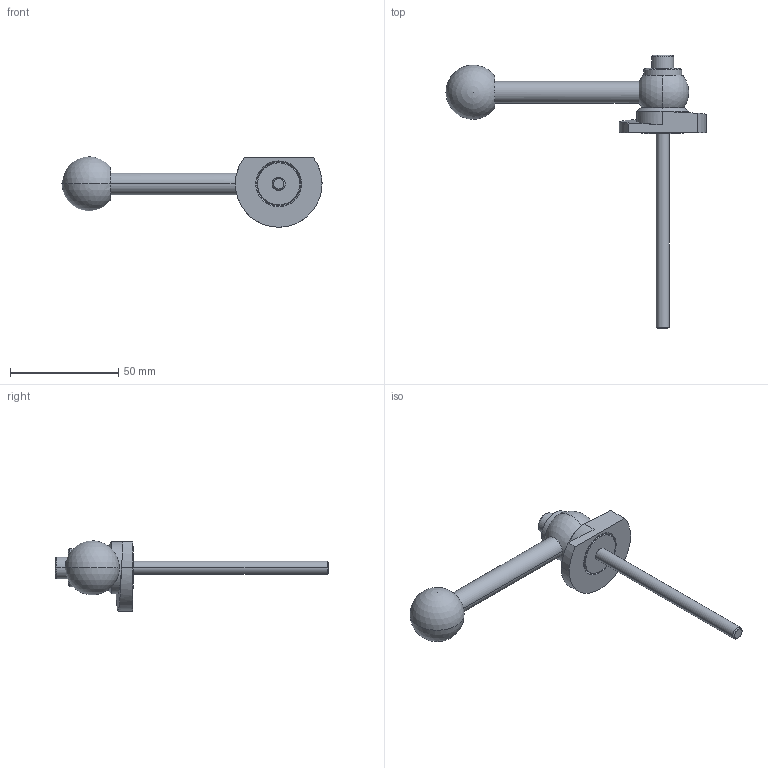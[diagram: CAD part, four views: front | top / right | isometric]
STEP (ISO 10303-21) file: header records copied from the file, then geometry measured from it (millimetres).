
FILE_DESCRIPTION (( 'STEP AP214' ), '1' );
FILE_NAME ('918.1-40-GVS-L-90.step', '2024-05-15T12:59:33', ( '' ), ( '' ), 'SwSTEP 2.0', 'SolidWorks 2022', '' );
FILE_SCHEMA (( 'AUTOMOTIVE_DESIGN' ));
Length unit declared in the file: millimetre
Products named in the file (1): 918.1-40-GVS-L-90
Bounding box: 120 x 126 x 32.5 mm (x, y, z)
Volume: 32052.5 mm3; surface area: 12435.5 mm2
Topology: 1 solids, 1 shells, 62 faces, 141 edges, 89 vertices
Faces by surface type: plane 20, cylinder 19, cone 14, sphere 4, bspline 3, torus 2
Entity records: 2003 total; most frequent: CARTESIAN_POINT 614, DIRECTION 304, ORIENTED_EDGE 262, EDGE_CURVE 131, AXIS2_PLACEMENT_3D 125, VERTEX_POINT 83, EDGE_LOOP 74, CIRCLE 65
